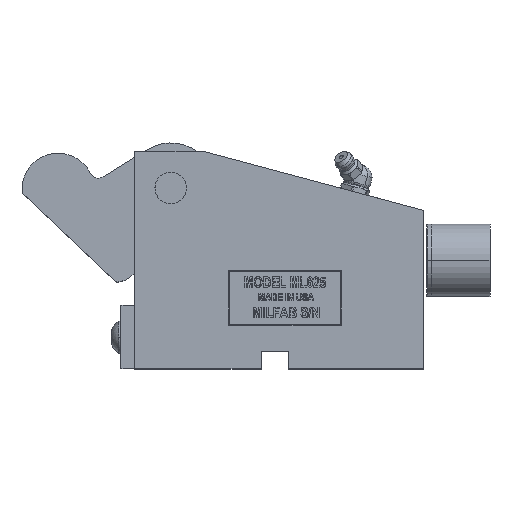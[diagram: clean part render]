
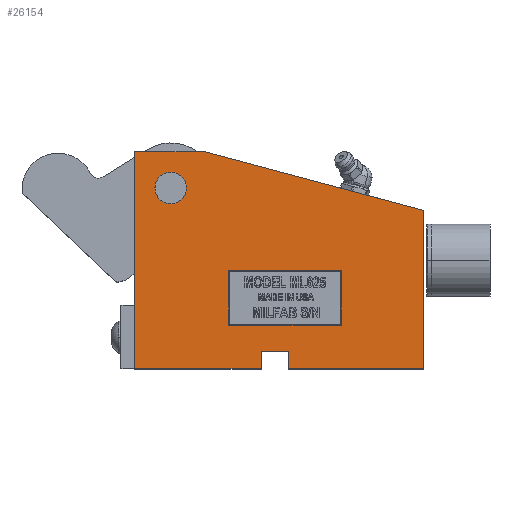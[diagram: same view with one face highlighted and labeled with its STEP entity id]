
A CAD part, top view. The second image highlights one B-rep face of the part: STEP entity #26154.
In plain terms, the highlighted planar face has unit normal (0, 0, 1).
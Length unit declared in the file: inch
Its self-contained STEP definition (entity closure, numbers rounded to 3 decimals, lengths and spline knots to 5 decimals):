
#760 = DIRECTION ( 'NONE',  ( 0., 1., 0. ) ) ;
#761 = VECTOR ( 'NONE', #760, 39.37008 ) ;
#762 = CARTESIAN_POINT ( 'NONE',  ( 1.768, -1.6209, 1.70456 ) ) ;
#763 = LINE ( 'NONE', #762, #761 ) ;
#764 = CARTESIAN_POINT ( 'NONE',  ( 1.768, 0.5691, 1.70456 ) ) ;
#768 = CARTESIAN_POINT ( 'NONE',  ( 1.768, -1.6209, 1.70456 ) ) ;
#1000 = CARTESIAN_POINT ( 'NONE',  ( -0.107, -1.3809, 1.70456 ) ) ;
#1074 = CARTESIAN_POINT ( 'NONE',  ( -0.932, -1.0209, 1.70456 ) ) ;
#1075 = DIRECTION ( 'NONE',  ( 1., 0., 0. ) ) ;
#1076 = VECTOR ( 'NONE', #1075, 39.37008 ) ;
#1077 = CARTESIAN_POINT ( 'NONE',  ( -0.932, -1.0209, 1.70456 ) ) ;
#1078 = LINE ( 'NONE', #1077, #1076 ) ;
#1457 = DIRECTION ( 'NONE',  ( 1., 0., 0. ) ) ;
#1458 = VECTOR ( 'NONE', #1457, 39.37008 ) ;
#1459 = CARTESIAN_POINT ( 'NONE',  ( -2.232, -1.6209, 1.70456 ) ) ;
#1460 = LINE ( 'NONE', #1459, #1458 ) ;
#1571 = DIRECTION ( 'NONE',  ( 1., 0., 0. ) ) ;
#1572 = VECTOR ( 'NONE', #1571, 39.37008 ) ;
#1573 = CARTESIAN_POINT ( 'NONE',  ( -0.482, -1.3809, 1.70456 ) ) ;
#1575 = LINE ( 'NONE', #1573, #1572 ) ;
#2442 = VERTEX_POINT ( 'NONE', #8434 ) ;
#2451 = VERTEX_POINT ( 'NONE', #8445 ) ;
#2453 = EDGE_CURVE ( 'NONE', #2451, #2442, #8504, .T. ) ;
#8434 = CARTESIAN_POINT ( 'NONE',  ( -1.514, 0.8791, 1.70456 ) ) ;
#8445 = CARTESIAN_POINT ( 'NONE',  ( -1.95, 0.8791, 1.70456 ) ) ;
#8500 = DIRECTION ( 'NONE',  ( 1., 0., 0. ) ) ;
#8501 = DIRECTION ( 'NONE',  ( 0., 0., 1. ) ) ;
#8502 = CARTESIAN_POINT ( 'NONE',  ( -1.732, 0.8791, 1.70456 ) ) ;
#8503 = AXIS2_PLACEMENT_3D ( 'NONE', #8502, #8501, #8500 ) ;
#8504 = CIRCLE ( 'NONE', #8503, 0.218 ) ;
#9799 = DIRECTION ( 'NONE',  ( 1., 0., 0. ) ) ;
#9800 = VECTOR ( 'NONE', #9799, 39.37008 ) ;
#9801 = CARTESIAN_POINT ( 'NONE',  ( -0.107, -1.6209, 1.70456 ) ) ;
#9802 = LINE ( 'NONE', #9801, #9800 ) ;
#9940 = CARTESIAN_POINT ( 'NONE',  ( -0.107, -1.6209, 1.70456 ) ) ;
#10019 = DIRECTION ( 'NONE',  ( 0., 1., 0. ) ) ;
#10020 = VECTOR ( 'NONE', #10019, 39.37008 ) ;
#10021 = CARTESIAN_POINT ( 'NONE',  ( -0.482, -1.6209, 1.70456 ) ) ;
#10022 = LINE ( 'NONE', #10021, #10020 ) ;
#10170 = DIRECTION ( 'NONE',  ( 0., -1., 0. ) ) ;
#10171 = VECTOR ( 'NONE', #10170, 39.37008 ) ;
#10172 = CARTESIAN_POINT ( 'NONE',  ( -2.232, -1.6209, 1.70456 ) ) ;
#10173 = LINE ( 'NONE', #10172, #10171 ) ;
#10193 = CARTESIAN_POINT ( 'NONE',  ( -0.482, -1.3809, 1.70456 ) ) ;
#10203 = CARTESIAN_POINT ( 'NONE',  ( -0.482, -1.6209, 1.70456 ) ) ;
#10500 = DIRECTION ( 'NONE',  ( 0., -1., 0. ) ) ;
#10501 = VECTOR ( 'NONE', #10500, 39.37008 ) ;
#10502 = CARTESIAN_POINT ( 'NONE',  ( -0.932, -1.0209, 1.70456 ) ) ;
#10503 = LINE ( 'NONE', #10502, #10501 ) ;
#10578 = LINE ( 'NONE', #10620, #10619 ) ;
#10617 = CARTESIAN_POINT ( 'NONE',  ( 0.628, -1.0209, 1.70456 ) ) ;
#10618 = DIRECTION ( 'NONE',  ( 0., 1., 0. ) ) ;
#10619 = VECTOR ( 'NONE', #10618, 39.37008 ) ;
#10620 = CARTESIAN_POINT ( 'NONE',  ( 0.628, -1.0209, 1.70456 ) ) ;
#10646 = AXIS2_PLACEMENT_3D ( 'NONE', #10707, #10706, #10705 ) ;
#10647 = PLANE ( 'NONE',  #10646 ) ;
#10665 = FACE_OUTER_BOUND ( 'NONE', #26101, .T. ) ;
#10666 = FACE_BOUND ( 'NONE', #25816, .T. ) ;
#10667 = FACE_BOUND ( 'NONE', #26155, .T. ) ;
#10705 = DIRECTION ( 'NONE',  ( -1., 0., 0. ) ) ;
#10706 = DIRECTION ( 'NONE',  ( 0., 0., -1. ) ) ;
#10707 = CARTESIAN_POINT ( 'NONE',  ( -0.107, -1.3809, 1.70456 ) ) ;
#10865 = LINE ( 'NONE', #10913, #10912 ) ;
#10895 = CARTESIAN_POINT ( 'NONE',  ( -0.932, -0.2609, 1.70456 ) ) ;
#10911 = DIRECTION ( 'NONE',  ( -0.966, 0.259, 0. ) ) ;
#10912 = VECTOR ( 'NONE', #10911, 39.37008 ) ;
#10913 = CARTESIAN_POINT ( 'NONE',  ( -1.25496, 1.3791, 1.70456 ) ) ;
#10923 = DIRECTION ( 'NONE',  ( 1., 0., 0. ) ) ;
#10924 = DIRECTION ( 'NONE',  ( 0., 0., 1. ) ) ;
#10925 = CARTESIAN_POINT ( 'NONE',  ( -1.732, 0.8791, 1.70456 ) ) ;
#10926 = AXIS2_PLACEMENT_3D ( 'NONE', #10925, #10924, #10923 ) ;
#10932 = CIRCLE ( 'NONE', #10926, 0.218 ) ;
#10941 = CARTESIAN_POINT ( 'NONE',  ( 0.628, -0.2609, 1.70456 ) ) ;
#10942 = DIRECTION ( 'NONE',  ( -1., 0., 0. ) ) ;
#10943 = VECTOR ( 'NONE', #10942, 39.37008 ) ;
#10944 = CARTESIAN_POINT ( 'NONE',  ( -0.932, -0.2609, 1.70456 ) ) ;
#10945 = LINE ( 'NONE', #10944, #10943 ) ;
#25516 = VERTEX_POINT ( 'NONE', #768 ) ;
#25517 = VERTEX_POINT ( 'NONE', #764 ) ;
#25518 = EDGE_CURVE ( 'NONE', #25516, #25517, #763, .T. ) ;
#25773 = VERTEX_POINT ( 'NONE', #29561 ) ;
#25775 = EDGE_CURVE ( 'NONE', #25795, #25773, #29560, .T. ) ;
#25789 = VERTEX_POINT ( 'NONE', #29596 ) ;
#25791 = EDGE_CURVE ( 'NONE', #25812, #25900, #29595, .T. ) ;
#25795 = VERTEX_POINT ( 'NONE', #29586 ) ;
#25812 = VERTEX_POINT ( 'NONE', #1000 ) ;
#25815 = ORIENTED_EDGE ( 'NONE', *, *, #26138, .F. ) ;
#25816 = EDGE_LOOP ( 'NONE', ( #26119, #26120 ) ) ;
#25822 = EDGE_CURVE ( 'NONE', #25823, #26139, #1078, .T. ) ;
#25823 = VERTEX_POINT ( 'NONE', #1074 ) ;
#25870 = EDGE_CURVE ( 'NONE', #25900, #25516, #9802, .T. ) ;
#25900 = VERTEX_POINT ( 'NONE', #9940 ) ;
#25941 = EDGE_CURVE ( 'NONE', #25789, #26049, #1460, .T. ) ;
#25973 = EDGE_CURVE ( 'NONE', #26055, #25812, #1575, .T. ) ;
#25985 = EDGE_CURVE ( 'NONE', #26049, #26055, #10022, .T. ) ;
#26042 = EDGE_CURVE ( 'NONE', #25773, #25789, #10173, .T. ) ;
#26049 = VERTEX_POINT ( 'NONE', #10203 ) ;
#26055 = VERTEX_POINT ( 'NONE', #10193 ) ;
#26092 = ORIENTED_EDGE ( 'NONE', *, *, #25870, .T. ) ;
#26093 = ORIENTED_EDGE ( 'NONE', *, *, #25518, .T. ) ;
#26101 = EDGE_LOOP ( 'NONE', ( #26102, #26092, #26093, #26347, #26348, #26349, #26298, #26299, #26300 ) ) ;
#26102 = ORIENTED_EDGE ( 'NONE', *, *, #25791, .T. ) ;
#26119 = ORIENTED_EDGE ( 'NONE', *, *, #26233, .F. ) ;
#26120 = ORIENTED_EDGE ( 'NONE', *, *, #2453, .F. ) ;
#26123 = EDGE_CURVE ( 'NONE', #26215, #25823, #10503, .T. ) ;
#26124 = ORIENTED_EDGE ( 'NONE', *, *, #26237, .F. ) ;
#26138 = EDGE_CURVE ( 'NONE', #26139, #26238, #10578, .T. ) ;
#26139 = VERTEX_POINT ( 'NONE', #10617 ) ;
#26154 = ADVANCED_FACE ( 'NONE', ( #10667, #10666, #10665 ), #10647, .F. ) ;
#26155 = EDGE_LOOP ( 'NONE', ( #26157, #26158, #26124, #25815 ) ) ;
#26157 = ORIENTED_EDGE ( 'NONE', *, *, #25822, .F. ) ;
#26158 = ORIENTED_EDGE ( 'NONE', *, *, #26123, .F. ) ;
#26207 = EDGE_CURVE ( 'NONE', #25517, #25795, #10865, .T. ) ;
#26215 = VERTEX_POINT ( 'NONE', #10895 ) ;
#26233 = EDGE_CURVE ( 'NONE', #2442, #2451, #10932, .T. ) ;
#26237 = EDGE_CURVE ( 'NONE', #26238, #26215, #10945, .T. ) ;
#26238 = VERTEX_POINT ( 'NONE', #10941 ) ;
#26298 = ORIENTED_EDGE ( 'NONE', *, *, #25941, .T. ) ;
#26299 = ORIENTED_EDGE ( 'NONE', *, *, #25985, .T. ) ;
#26300 = ORIENTED_EDGE ( 'NONE', *, *, #25973, .T. ) ;
#26347 = ORIENTED_EDGE ( 'NONE', *, *, #26207, .T. ) ;
#26348 = ORIENTED_EDGE ( 'NONE', *, *, #25775, .T. ) ;
#26349 = ORIENTED_EDGE ( 'NONE', *, *, #26042, .T. ) ;
#29557 = DIRECTION ( 'NONE',  ( -1., 0., 0. ) ) ;
#29558 = VECTOR ( 'NONE', #29557, 39.37008 ) ;
#29559 = CARTESIAN_POINT ( 'NONE',  ( -2.232, 1.3791, 1.70456 ) ) ;
#29560 = LINE ( 'NONE', #29559, #29558 ) ;
#29561 = CARTESIAN_POINT ( 'NONE',  ( -2.232, 1.3791, 1.70456 ) ) ;
#29586 = CARTESIAN_POINT ( 'NONE',  ( -1.25496, 1.3791, 1.70456 ) ) ;
#29592 = DIRECTION ( 'NONE',  ( 0., -1., 0. ) ) ;
#29593 = VECTOR ( 'NONE', #29592, 39.37008 ) ;
#29594 = CARTESIAN_POINT ( 'NONE',  ( -0.107, -1.6209, 1.70456 ) ) ;
#29595 = LINE ( 'NONE', #29594, #29593 ) ;
#29596 = CARTESIAN_POINT ( 'NONE',  ( -2.232, -1.6209, 1.70456 ) ) ;
